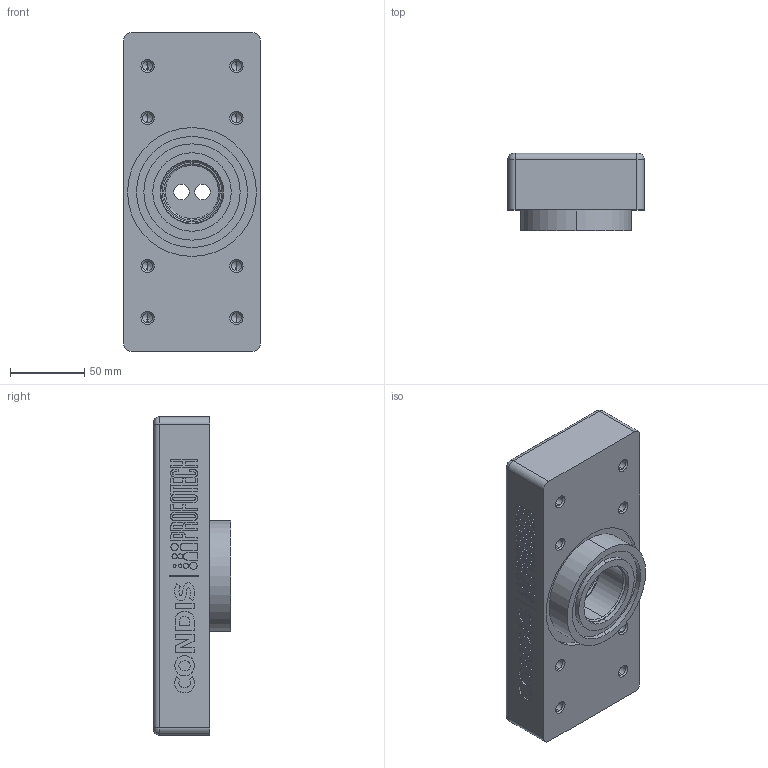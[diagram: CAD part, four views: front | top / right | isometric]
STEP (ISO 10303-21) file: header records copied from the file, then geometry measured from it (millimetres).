
FILE_DESCRIPTION (( 'STEP AP214' ), '1' );
FILE_NAME ('ÒÒÝÎ-3.14.00.00.009-01 Ïëèòà Ó×Ý 150.STEP', '2020-12-22T18:58:00', ( '' ), ( '' ), 'SwSTEP 2.0', 'SolidWorks 2018', '' );
FILE_SCHEMA (( 'AUTOMOTIVE_DESIGN' ));
Length unit declared in the file: millimetre
Products named in the file (1): ÒÒÝÎ-3.14.00.00.009-01 Ïëèòà Ó×Ý 150
Bounding box: 92 x 52 x 215 mm (x, y, z)
Volume: 731022.9 mm3; surface area: 81604.6 mm2
Topology: 1 solids, 1 shells, 949 faces, 2578 edges, 1690 vertices
Faces by surface type: plane 745, bspline 106, cone 48, cylinder 46, torus 4
Entity records: 30416 total; most frequent: CARTESIAN_POINT 6904, ORIENTED_EDGE 5116, DIRECTION 4158, EDGE_CURVE 2558, VECTOR 2222, LINE 2222, VERTEX_POINT 1690, EDGE_LOOP 1032
